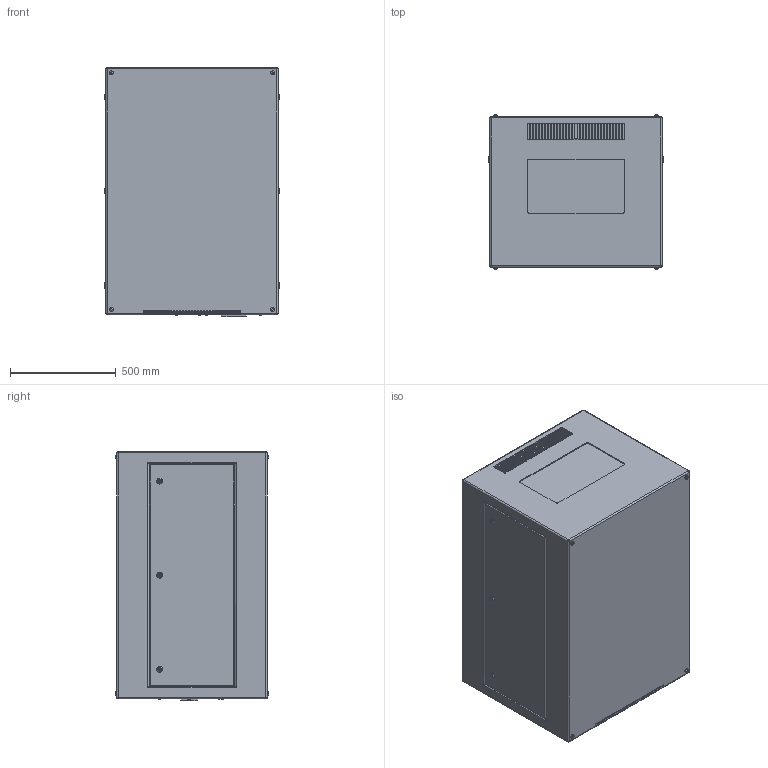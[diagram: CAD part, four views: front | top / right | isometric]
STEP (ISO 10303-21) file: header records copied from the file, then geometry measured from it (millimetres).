
FILE_DESCRIPTION (( 'STEP AP214' ), '1' );
FILE_NAME ('Zen 57.204.L R11.STEP', '2022-09-15T21:14:33', ( '' ), ( '' ), 'SwSTEP 2.0', 'SolidWorks 2020', '' );
FILE_SCHEMA (( 'AUTOMOTIVE_DESIGN' ));
Length unit declared in the file: inch
Products named in the file (1): Zen 57.204.L R11
Bounding box: 825.5 x 725.91 x 1176.02 mm (x, y, z)
Volume: 673952979.8 mm3; surface area: 5042604.8 mm2
Topology: 1 solids, 5 shells, 1098 faces, 2776 edges, 1706 vertices
Faces by surface type: plane 498, cylinder 478, sphere 74, torus 48
Entity records: 36042 total; most frequent: CARTESIAN_POINT 5939, DIRECTION 5824, ORIENTED_EDGE 5404, EDGE_CURVE 2702, AXIS2_PLACEMENT_3D 2103, VERTEX_POINT 1706, LINE 1618, VECTOR 1618
